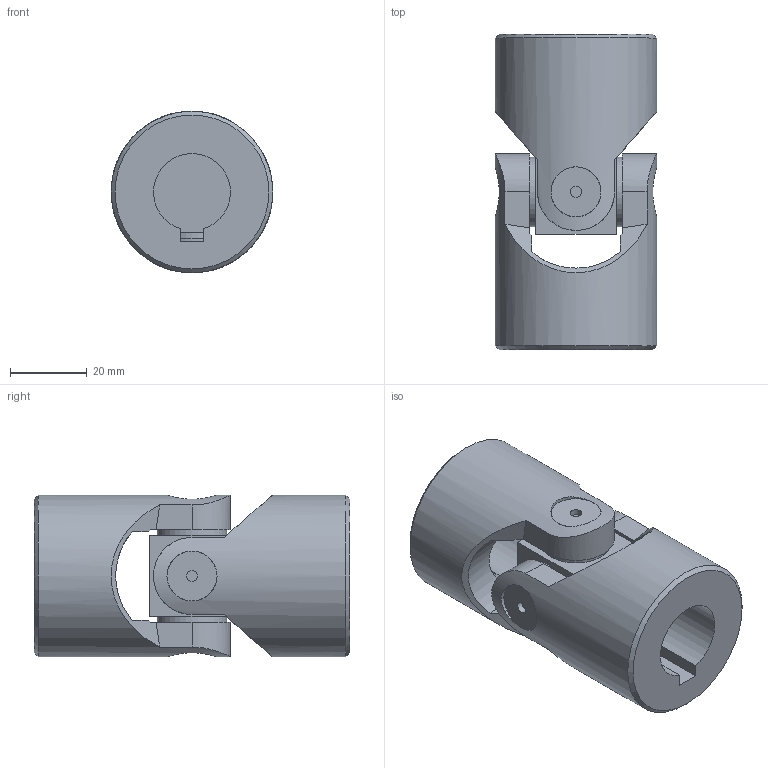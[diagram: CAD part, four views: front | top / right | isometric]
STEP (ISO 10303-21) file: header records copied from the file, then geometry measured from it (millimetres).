
FILE_DESCRIPTION(/* description */ ('EXTENSIBLE TRANSIMISSIONS Series G DIN 808 -2-'),/* implementation_level */ '2;1');
FILE_NAME(/* name */ '\\SRV2016\societa\Stefano\Disegni 3D\Dis. Clienti\0000Catalogo 3D\01Singoli G-GB\SG0S201C.stp',/* time_stamp */ '2021-11-08T17:25:58+01:00',/* author */ ('acquisti'),/* organization */ ('MARIOFERRI'),/* preprocessor_version */ 'ST-DEVELOPER v15.6',/* originating_system */ 'Autodesk Inventor 2015',/* authorisation */ '');
FILE_SCHEMA (('AUTOMOTIVE_DESIGN { 1 0 10303 214 3 1 1 }'));
Length unit declared in the file: millimetre
Products named in the file (4): 3G SFE; 3G MOS; 3G MOC; Assieme3
Assembly tree (3 placements, depth 2):
  Assieme3
    3G SFE
    3G MOS
    3G MOC
Bounding box: 42 x 82 x 42 mm (x, y, z)
Volume: 76848.5 mm3; surface area: 21789.7 mm2
Topology: 3 solids, 3 shells, 87 faces, 205 edges, 134 vertices
Faces by surface type: plane 39, cylinder 34, cone 12, torus 2
Full cylindrical faces by diameter (mm): 3 x4, 18 x4, 20 x1, 22 x1, 42 x2
Entity records: 2868 total; most frequent: CARTESIAN_POINT 945, ORIENTED_EDGE 374, DIRECTION 369, EDGE_CURVE 187, AXIS2_PLACEMENT_3D 162, VERTEX_POINT 133, EDGE_LOOP 118, FACE_OUTER_BOUND 87
